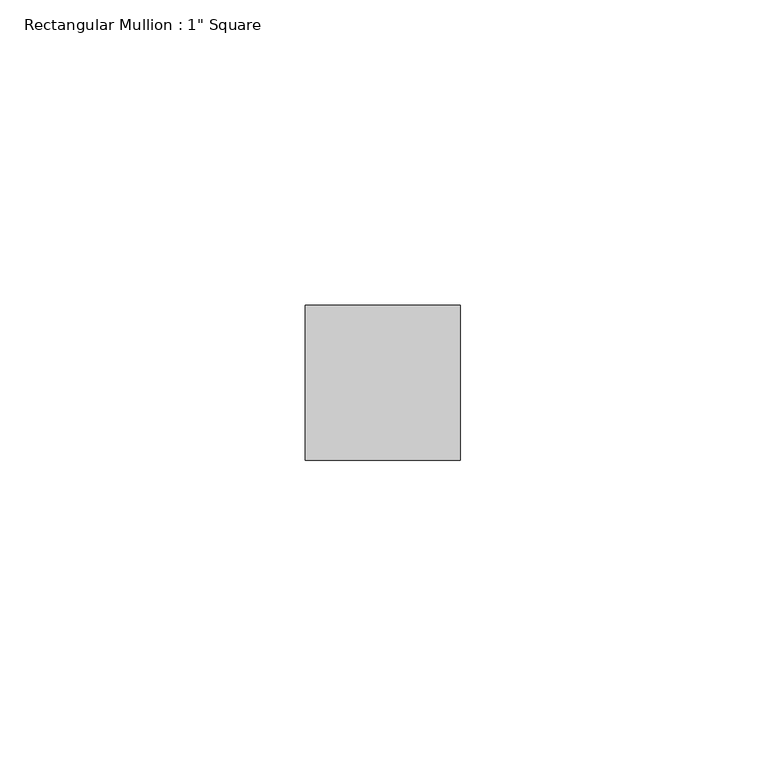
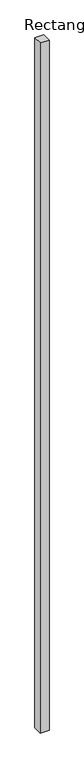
"""IFC4 building model written with IfcOpenShell, lengths in millimetres: member geometry."""

from ifc_helpers import new_model, si_unit, frame, origin, place, context, project, spatial, polyline, outline, extrude, source, transform, mapped, element, save


def member_172ab1ab(model_context):
    return source(origin(), model_context, "Body", "SweptSolid", [
        extrude(outline(polyline([(0.0, 12.7), (0.0, -12.7), (-25.4, -12.7), (-25.4, 12.7), (0.0, 12.7)])), frame((0.0, 0.0, -2073.8163603), z_axis=(0.0, 0.0, 1.0), x_axis=(1.0, 0.0, 0.0)), (0.0, 0.0, 1.0), 2073.8163603),
    ])


if __name__ == "__main__":
    model = new_model("IFC4")
    model_context = context("Model", 3, world=origin())
    ifc_project = project(units=[si_unit("LENGTHUNIT", "METRE", prefix="MILLI")], contexts=[model_context])
    site = spatial("IfcSite", under=ifc_project)
    building = spatial("IfcBuilding", under=site)
    placement = place(None, origin())
    member_shape = member_172ab1ab(model_context)
    element("IfcMember", 1, ObjectType="Rectangular Mullion : 1\" Square", at=placement, inside=building, context=model_context, shape_type="MappedRepresentation", body=[
        mapped(member_shape, transform((0.0, 0.0, 0.0), x_axis=(1.0, 0.0, 0.0), y_axis=(0.0, 1.0, 0.0), z_axis=(0.0, 0.0, 1.0))),
    ])
    save(model, "model.ifc")
